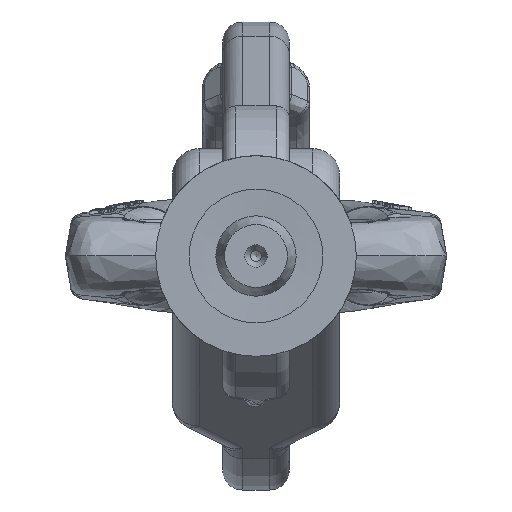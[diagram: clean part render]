
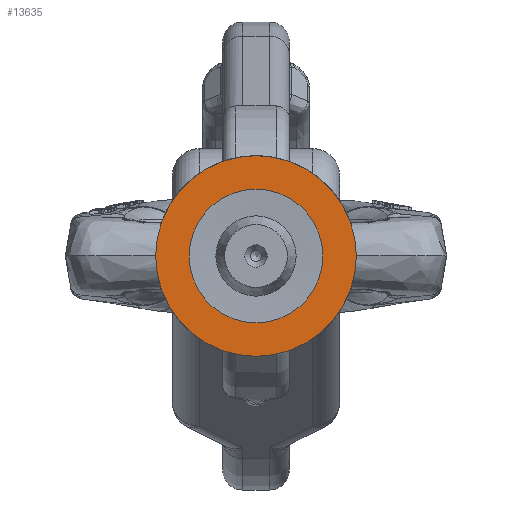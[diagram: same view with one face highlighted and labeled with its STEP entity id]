
A CAD part, front view. The second image highlights one B-rep face of the part: STEP entity #13635.
In plain terms, the highlighted planar face has unit normal (0, -1, 0) as drawn and (0, 0, -1) by its records, which use the part's own axes.
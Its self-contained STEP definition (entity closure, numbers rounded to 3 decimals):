
#344=FACE_BOUND('',#2928,.T.);
#919=CIRCLE('',#14685,15.);
#926=CIRCLE('',#14699,10.);
#1209=PLANE('',#14702);
#2030=FACE_OUTER_BOUND('',#2927,.T.);
#2927=EDGE_LOOP('',(#12382));
#2928=EDGE_LOOP('',(#12383));
#6252=VERTEX_POINT('',#47739);
#6259=VERTEX_POINT('',#47760);
#8294=EDGE_CURVE('',#6252,#6252,#919,.T.);
#8301=EDGE_CURVE('',#6259,#6259,#926,.T.);
#12382=ORIENTED_EDGE('',*,*,#8294,.T.);
#12383=ORIENTED_EDGE('',*,*,#8301,.F.);
#13635=ADVANCED_FACE('',(#2030,#344),#1209,.F.);
#14685=AXIS2_PLACEMENT_3D('',#47740,#17358,#17359);
#14699=AXIS2_PLACEMENT_3D('',#47761,#17386,#17387);
#14702=AXIS2_PLACEMENT_3D('',#47765,#17392,#17393);
#17358=DIRECTION('center_axis',(0.,0.,-1.));
#17359=DIRECTION('ref_axis',(-1.,0.,0.));
#17386=DIRECTION('center_axis',(0.,0.,-1.));
#17387=DIRECTION('ref_axis',(-1.,0.,0.));
#17392=DIRECTION('center_axis',(0.,0.,1.));
#17393=DIRECTION('ref_axis',(1.,0.,0.));
#47739=CARTESIAN_POINT('',(15.,0.,0.));
#47740=CARTESIAN_POINT('Origin',(0.,0.,0.));
#47760=CARTESIAN_POINT('',(10.,0.,0.));
#47761=CARTESIAN_POINT('Origin',(0.,0.,0.));
#47765=CARTESIAN_POINT('Origin',(0.,0.,0.));
